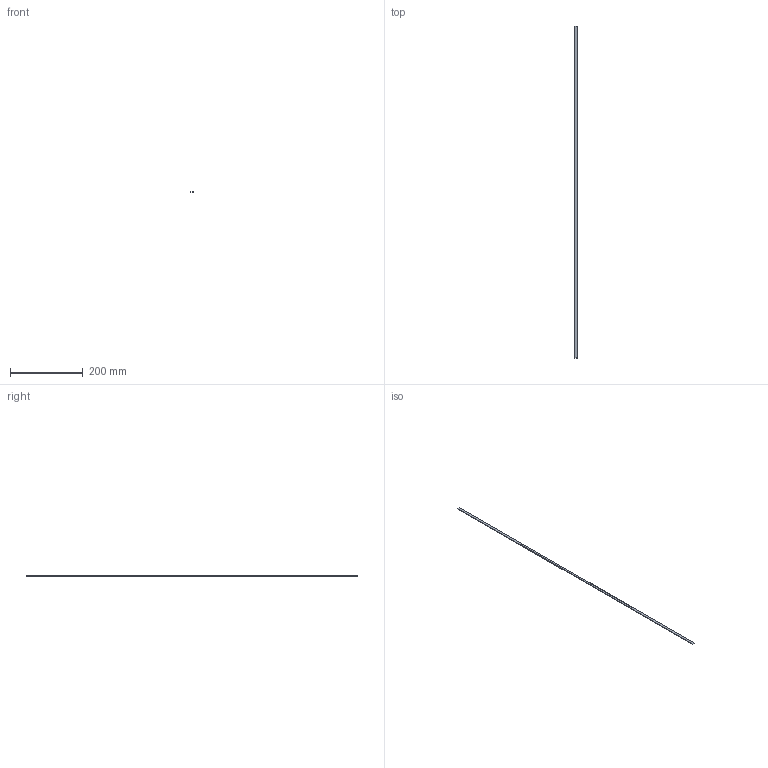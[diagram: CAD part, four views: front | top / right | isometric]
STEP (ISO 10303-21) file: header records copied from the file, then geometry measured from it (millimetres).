
FILE_DESCRIPTION(/* description */ (''),/* implementation_level */ '2;1');
FILE_NAME(/* name */ 'C:/Users/drich/Desktop/BM18 v1.step',/* time_stamp */ '2020-01-04T15:39:08-06:00',/* author */ (''),/* organization */ (''),/* preprocessor_version */ 'ST-DEVELOPER v18',/* originating_system */ 'Autodesk Translation Framework v8.12.0.6',/* authorisation */ '');
FILE_SCHEMA (('AUTOMOTIVE_DESIGN { 1 0 10303 214 3 1 1 }'));
Length unit declared in the file: inch
Products named in the file (1): BM18
Bounding box: 7.79 x 914.4 x 1.45 mm (x, y, z)
Volume: 9945.6 mm3; surface area: 15840.1 mm2
Topology: 1 solids, 1 shells, 6 faces, 12 edges, 8 vertices
Faces by surface type: plane 4, cylinder 2
Entity records: 202 total; most frequent: DIRECTION 30, CARTESIAN_POINT 27, ORIENTED_EDGE 24, EDGE_CURVE 12, AXIS2_PLACEMENT_3D 11, LINE 8, VECTOR 8, VERTEX_POINT 8
